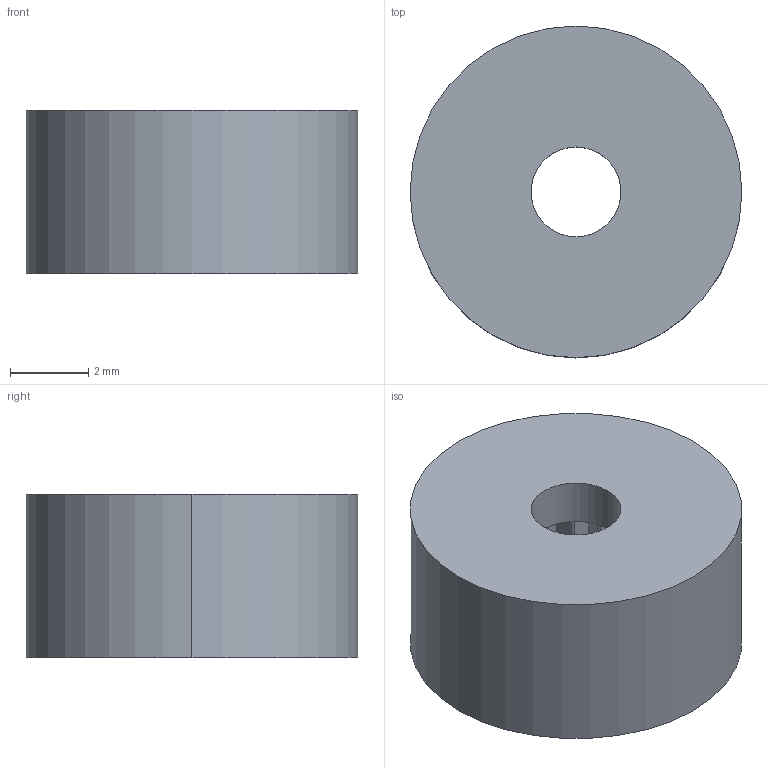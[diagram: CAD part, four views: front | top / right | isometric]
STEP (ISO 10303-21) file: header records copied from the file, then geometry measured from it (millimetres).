
FILE_DESCRIPTION(('CATIA V5 STEP Exchange'),'2;1');
FILE_NAME('Z:\Hobby\3d print_engraver\Eigene Designs\Modellbau\NerfDrop SG90\sg90_interface.stp','2025-12-14T13:58:22+00:00',('none'),('none'),'CATIA Version 5 Release 21 GA (IN-10)','CATIA V5 STEP AP203','none');
FILE_SCHEMA(('CONFIG_CONTROL_DESIGN'));
Length unit declared in the file: millimetre
Products named in the file (1): Part1
Bounding box: 8.5 x 8.5 x 4.2 mm (x, y, z)
Volume: 176.3 mm3; surface area: 306.1 mm2
Topology: 1 solids, 1 shells, 70 faces, 201 edges, 134 vertices
Faces by surface type: plane 45, cylinder 25
Entity records: 2185 total; most frequent: ORIENTED_EDGE 402, CARTESIAN_POINT 385, DIRECTION 299, EDGE_CURVE 201, VECTOR 151, LINE 151, VERTEX_POINT 134, AXIS2_PLACEMENT_3D 100
